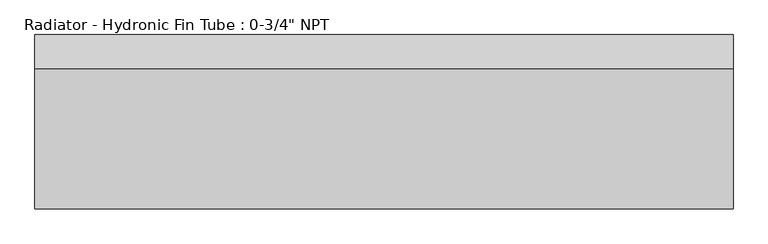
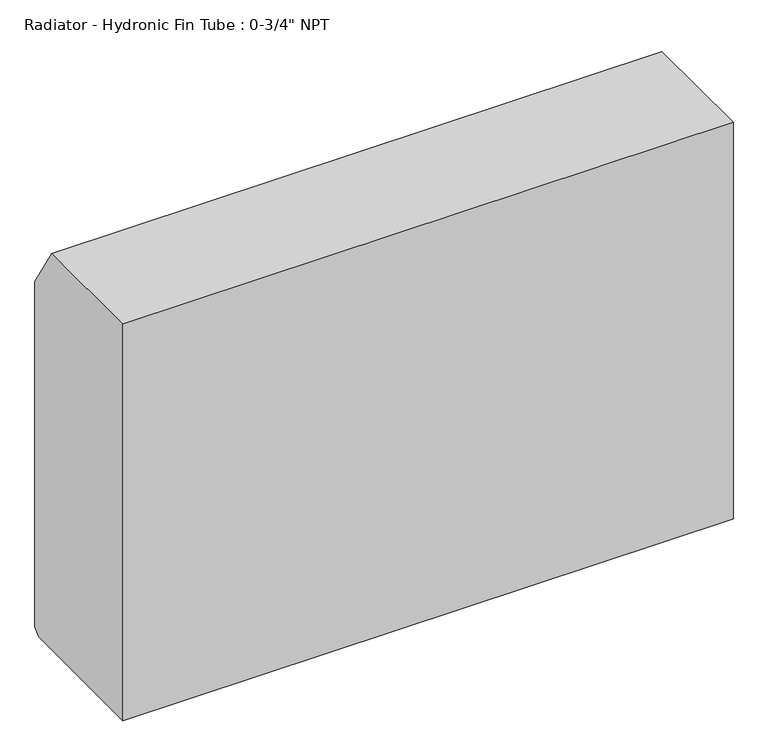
"""IFC4 building model written with IfcOpenShell, lengths in millimetres: proxy geometry."""

import ifcopenshell
import ifcopenshell.guid

model = None  # the IFC model being written
_history = None  # IfcOwnerHistory: only IFC2X3 demands one
_inside = {}  # id of a spatial element -> (the spatial element, [elements in it])
_under = {}  # id of a project, library or spatial element -> (it, [spatial elements below it])
_declared = {}  # id of a project -> (the project, [libraries it declares])
_typed = {}  # id of a type object -> (the type object, [elements of that type])
_made_of = {}  # id of a material, layer set ... -> (it, [elements and type objects made of it])


def new_model(schema):
    """Start an empty IFC model of exactly this schema.

    Asked for "IFC4X3", IfcOpenShell would pick the latest addendum, in which some entities
    have other attributes; the version numbers below select the first issue.
    IFC2X3 requires an IfcOwnerHistory on every rooted entity: one is made here for all.
    """
    global model, _history
    if schema == "IFC4X3":
        model = ifcopenshell.file(schema_version=(4, 3, 0, 0))
    else:
        model = ifcopenshell.file(schema=schema)
    _inside.clear()
    _under.clear()
    _declared.clear()
    _typed.clear()
    _made_of.clear()
    _history = None
    if model.schema == "IFC2X3":
        org = make("IfcOrganization", Name="unknown")
        user = make(
            "IfcPersonAndOrganization",
            ThePerson=make("IfcPerson", FamilyName="unknown"),
            TheOrganization=org,
        )
        app = make(
            "IfcApplication",
            ApplicationDeveloper=org,
            Version="unknown",
            ApplicationFullName="unknown",
            ApplicationIdentifier="unknown",
        )
        _history = make(
            "IfcOwnerHistory",
            OwningUser=user,
            OwningApplication=app,
            ChangeAction="ADDED",
            CreationDate=0,
        )
    return model


def make(cls, **values):
    """One entity of the class cls with the attributes given. An attribute that is None is left unset."""
    return model.create_entity(
        cls, **{name: value for name, value in values.items() if value is not None}
    )


def rooted(cls, **values):
    """An entity with a GlobalId (a new one), such as an element, a storey or a relation."""
    return make(cls, GlobalId=ifcopenshell.guid.new(), OwnerHistory=_history, **values)


def si_unit(unit_type, name, prefix=None):
    """IfcSIUnit, for example si_unit("LENGTHUNIT", "METRE", prefix="MILLI")."""
    return make("IfcSIUnit", UnitType=unit_type, Prefix=prefix, Name=name)


def assignment(units):
    """IfcUnitAssignment: the units of a project."""
    return None if units is None else make("IfcUnitAssignment", Units=units)


def point(xyz):
    """IfcCartesianPoint."""
    return None if xyz is None else make("IfcCartesianPoint", Coordinates=xyz)


def direction(xyz):
    """IfcDirection."""
    return None if xyz is None else make("IfcDirection", DirectionRatios=xyz)


def frame(location, z_axis=None, x_axis=None):
    """IfcAxis2Placement3D, a coordinate frame: its origin and axes. An axis left out is left unset."""
    return make(
        "IfcAxis2Placement3D",
        Location=point(location),
        Axis=direction(z_axis),
        RefDirection=direction(x_axis),
    )


def origin():
    """The frame at (0, 0, 0) with its axes left unset."""
    return frame((0.0, 0.0, 0.0))


def place(relative_to, where):
    """IfcLocalPlacement: puts the frame where relative to a parent placement (None: the world)."""
    return make(
        "IfcLocalPlacement", PlacementRelTo=relative_to, RelativePlacement=where
    )


def context(
    kind, dimensions, precision=None, world=None, true_north=None, identifier=None
):
    """IfcGeometricRepresentationContext, for example the 3D "Model" context."""
    return make(
        "IfcGeometricRepresentationContext",
        ContextIdentifier=identifier,
        ContextType=kind,
        CoordinateSpaceDimension=dimensions,
        Precision=precision,
        WorldCoordinateSystem=world,
        TrueNorth=true_north,
    )


def project(units=None, contexts=None):
    """IfcProject with its units and contexts."""
    return rooted(
        "IfcProject",
        Name="project",
        RepresentationContexts=contexts,
        UnitsInContext=assignment(units),
    )


def spatial(cls, under=None, at=None, **own):
    """A site, building, storey or space (cls), placed at a placement, below another one or the project."""
    s = rooted(cls, ObjectPlacement=at, **own)
    if under is not None:
        _under.setdefault(under.id(), (under, []))[1].append(s)
    return s


def polyline(points):
    """IfcPolyline through the points."""
    return make("IfcPolyline", Points=[point(p) for p in points])


def outline(outer, holes=None, kind="AREA"):
    """IfcArbitraryClosedProfileDef: a profile drawn as a closed curve; with holes, ...WithVoids."""
    if holes is None:
        return make("IfcArbitraryClosedProfileDef", ProfileType=kind, OuterCurve=outer)
    return make(
        "IfcArbitraryProfileDefWithVoids",
        ProfileType=kind,
        OuterCurve=outer,
        InnerCurves=holes,
    )


def extrude(swept, where, along, depth):
    """IfcExtrudedAreaSolid: the profile swept, set in the frame where, extruded along a direction by depth."""
    return make(
        "IfcExtrudedAreaSolid",
        SweptArea=swept,
        Position=where,
        ExtrudedDirection=direction(along),
        Depth=depth,
    )


def shape(context_of_items, identifier, shape_type, items):
    """IfcShapeRepresentation: the items that make up one representation, for example the "Body"."""
    return make(
        "IfcShapeRepresentation",
        ContextOfItems=context_of_items,
        RepresentationIdentifier=identifier,
        RepresentationType=shape_type,
        Items=items,
    )


def source(mapping_origin, context_of_items, identifier, shape_type, items):
    """IfcRepresentationMap: a shape defined once, which mapped items show again and again."""
    return make(
        "IfcRepresentationMap",
        MappingOrigin=mapping_origin,
        MappedRepresentation=shape(context_of_items, identifier, shape_type, items),
    )


def transform(
    local_origin,
    x_axis=None,
    y_axis=None,
    z_axis=None,
    scale=None,
    scale2=None,
    scale3=None,
    uniform=True,
):
    """IfcCartesianTransformationOperator3D, or its non-uniform kind. x_axis, y_axis, z_axis: its Axis1, 2, 3."""
    if uniform:
        return make(
            "IfcCartesianTransformationOperator3D",
            Axis1=direction(x_axis),
            Axis2=direction(y_axis),
            LocalOrigin=point(local_origin),
            Scale=scale,
            Axis3=direction(z_axis),
        )
    return make(
        "IfcCartesianTransformationOperator3DnonUniform",
        Axis1=direction(x_axis),
        Axis2=direction(y_axis),
        LocalOrigin=point(local_origin),
        Scale=scale,
        Axis3=direction(z_axis),
        Scale2=scale2,
        Scale3=scale3,
    )


def mapped(mapping_source, mapping_target):
    """IfcMappedItem: shows the shape of a source again, moved by a transform."""
    return make(
        "IfcMappedItem", MappingSource=mapping_source, MappingTarget=mapping_target
    )


def made_of(thing, what):
    """Note that an element or type object is made of a material, layer set ...; save() writes the relation."""
    if what is not None:
        _made_of.setdefault(what.id(), (what, []))[1].append(thing)
    return thing


def element(
    cls,
    number,
    at=None,
    inside=None,
    cuts=None,
    type_object=None,
    material=None,
    context=None,
    identifier="Body",
    shape_type=None,
    held_by="IfcProductDefinitionShape",
    body=None,
    shapes=None,
    **own,
):
    """One element of the class cls, such as IfcWall. Its Tag is "e" and its number.

    at: its placement. inside: the storey or other place that contains it. cuts: it is an
    opening in that element (IfcRelVoidsElement). A single representation is given by context,
    identifier, shape_type and body (its items); several are given by shapes. held_by: the class
    of the entity that holds the representations. save() writes the other relations.
    """
    e = rooted(cls, Tag="e%d" % number, ObjectPlacement=at, **own)
    if body is not None:
        shapes = [shape(context, identifier, shape_type, body)]
    if shapes is not None:
        e.Representation = make(held_by, Representations=shapes)
    if inside is not None:
        _inside.setdefault(inside.id(), (inside, []))[1].append(e)
    if cuts is not None:
        rooted(
            "IfcRelVoidsElement", RelatingBuildingElement=cuts, RelatedOpeningElement=e
        )
    if type_object is not None:
        _typed.setdefault(type_object.id(), (type_object, []))[1].append(e)
    return made_of(e, material)


def aggregate(whole, parts):
    """IfcRelAggregates: a whole, such as a stair, and the parts it consists of."""
    return rooted("IfcRelAggregates", RelatingObject=whole, RelatedObjects=parts)


def save(model, path):
    """Write the relations noted so far, then the file.

    IfcRelAggregates (storeys below a building ...), IfcRelContainedInSpatialStructure (elements
    in a storey), IfcRelDefinesByType, IfcRelAssociatesMaterial and IfcRelDeclares: one each for
    every whole, place, type object, material and project.
    """
    for whole, parts in _under.values():
        aggregate(whole, parts)
    for where, things in _inside.values():
        rooted(
            "IfcRelContainedInSpatialStructure",
            RelatedElements=things,
            RelatingStructure=where,
        )
    for kind, things in _typed.values():
        rooted("IfcRelDefinesByType", RelatedObjects=things, RelatingType=kind)
    for what, things in _made_of.values():
        rooted("IfcRelAssociatesMaterial", RelatedObjects=things, RelatingMaterial=what)
    for by, libraries in _declared.values():
        rooted("IfcRelDeclares", RelatingContext=by, RelatedDefinitions=libraries)
    model.write(path)


def proxy_1b8ec6d5(model_context):
    return source(origin(), model_context, "Body", "SweptSolid", [
        extrude(outline(polyline([(469.9, 304.8), (177.8, 304.8), (177.8, 1143.0), (423.8625, 1143.0), (482.6, 1048.6279261), (482.6, 318.3779261), (469.9, 304.8)])), frame((-914.4, 0.0, 0.0), z_axis=(1.0, 0.0, 0.0), x_axis=(0.0, 1.0, 0.0)), (0.0, 0.0, 1.0), 1219.2),
    ])


if __name__ == "__main__":
    model = new_model("IFC4")
    model_context = context("Model", 3, world=origin())
    ifc_project = project(units=[si_unit("LENGTHUNIT", "METRE", prefix="MILLI")], contexts=[model_context])
    site = spatial("IfcSite", under=ifc_project)
    building = spatial("IfcBuilding", under=site)
    placement = place(None, origin())
    proxy_shape = proxy_1b8ec6d5(model_context)
    element("IfcBuildingElementProxy", 1, Name="Radiator - Hydronic Fin Tube : 0-3/4\" NPT", ObjectType="Radiator - Hydronic Fin Tube : 0-3/4\" NPT", at=placement, inside=building, context=model_context, shape_type="MappedRepresentation", body=[
        mapped(proxy_shape, transform((0.0, 0.0, 0.0), x_axis=(1.0, 0.0, 0.0), y_axis=(0.0, 1.0, 0.0), z_axis=(0.0, 0.0, 1.0))),
    ])
    save(model, "model.ifc")
